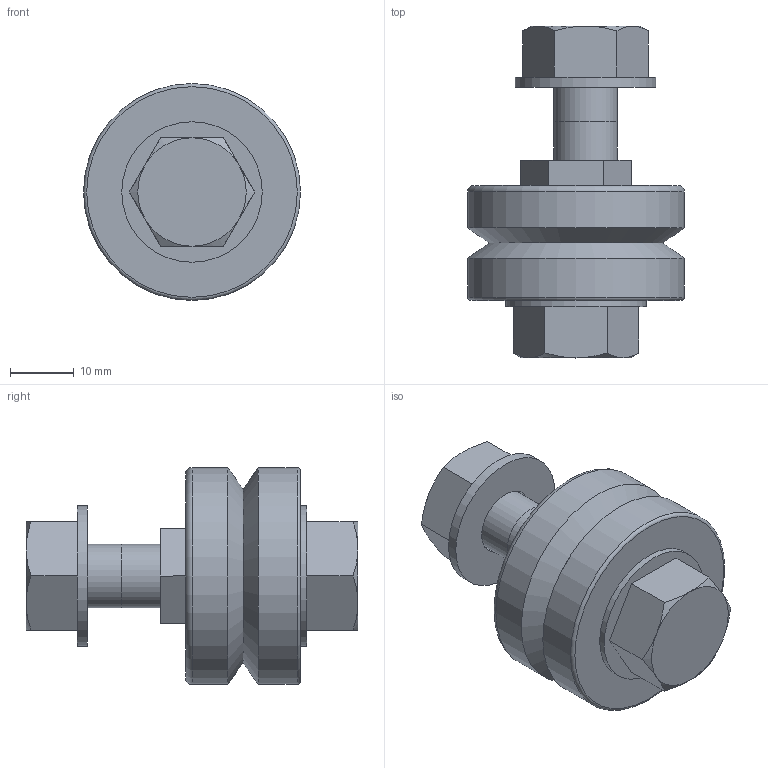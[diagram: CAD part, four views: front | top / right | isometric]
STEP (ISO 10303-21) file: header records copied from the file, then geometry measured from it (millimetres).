
FILE_DESCRIPTION(('STEP AP203'),'1');
FILE_NAME('//192.168.1.1/share/s-4 技術開発/s-4-4_CAD/s-4-4-6_見直し、確認済み/013 修正済み(済)/ジャーナル_TOP/NA/NA-10-E.step','2022-03-11T06:54:20',(' '),(' '),'Spatial InterOp 3D',' ',' ');
FILE_SCHEMA(('CONFIG_CONTROL_DESIGN'));
Length unit declared in the file: millimetre
Products named in the file (3): 1; 2; 3
Bounding box: 34 x 52 x 34 mm (x, y, z)
Volume: 22260.6 mm3; surface area: 7142.5 mm2
Topology: 3 solids, 3 shells, 52 faces, 113 edges, 70 vertices
Faces by surface type: plane 27, cone 14, cylinder 8, torus 2, sphere 1
Full cylindrical faces by diameter (mm): 8.75 x1, 10 x2, 10.5 x1, 22 x2, 34 x2
Entity records: 1530 total; most frequent: CARTESIAN_POINT 357, DIRECTION 212, ORIENTED_EDGE 192, EDGE_CURVE 96, AXIS2_PLACEMENT_3D 85, EDGE_LOOP 72, VERTEX_POINT 66, FACE_OUTER_BOUND 62
